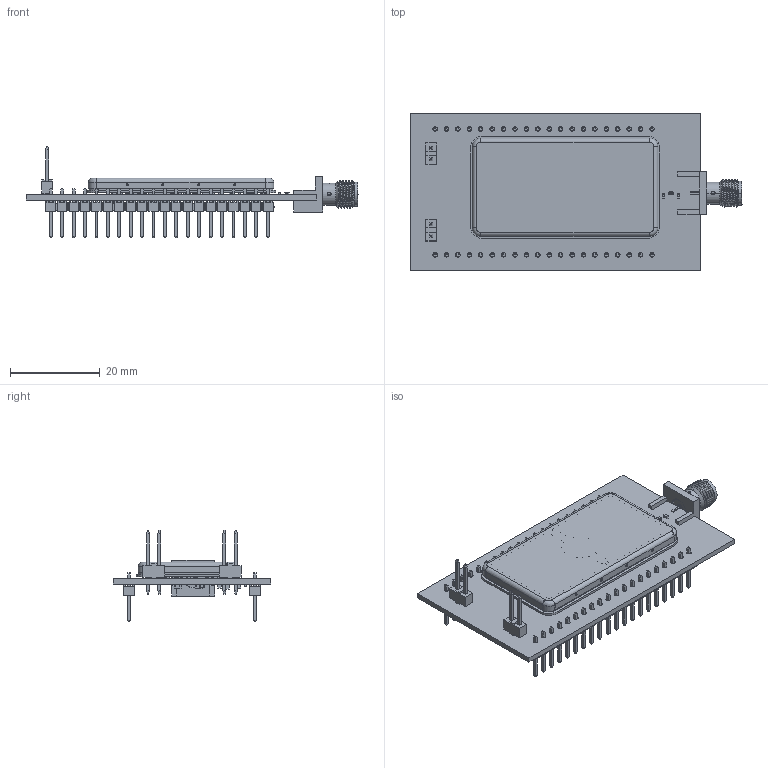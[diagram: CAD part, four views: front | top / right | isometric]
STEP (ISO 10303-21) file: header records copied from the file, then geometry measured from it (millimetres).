
FILE_DESCRIPTION(('Open CASCADE Model'),'2;1');
FILE_NAME('Open CASCADE Shape Model','2022-03-30T10:42:46',('Author'),( 'Open CASCADE'),'Open CASCADE STEP processor 6.8','Open CASCADE 6.8' ,'Unknown');
FILE_SCHEMA(('AUTOMOTIVE_DESIGN { 1 0 10303 214 1 1 1 1 }'));
Length unit declared in the file: millimetre
Products named in the file (132): PCB; Board; Open CASCADE STEP translator 6.8 3.1.1; C41; CAPC1005X06; SB2; 6235102768; Extruded; SB11; SB9; SB5; C37; C35; CAPC1608X09; SB6; R3; RESC1005X04N; C32; C26; C110; C34; User_Library-Chip_Cap_MLCC_0201_(0603); C33; C24; C27; L2; Chip_InductorINDC2012X130N; X3; NX2016; 6398123872; 6398123712; R6; R0402; 6398125072; L11; INDC1005X50N; 6398124512; C39; C0402; C38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
Assembly tree (273 placements, depth 5):
  PCB
    Board
      Open CASCADE STEP translator 6.8 3.1.1
    C41
      CAPC1005X06
    SB2
      6235102768
        Extruded
    SB11
      6235102768
        Extruded
    SB9
      6235102768
        Extruded
    SB5
      6235102768
        Extruded
    C37
      CAPC1005X06
    C35
      CAPC1608X09
    SB6
      6235102768
        Extruded
    R3
      RESC1005X04N
    C32
      CAPC1005X06
    C26
      CAPC1005X06
    C110
      CAPC1005X06
    C34
      User_Library-Chip_Cap_MLCC_0201_(0603)
    C33
      User_Library-Chip_Cap_MLCC_0201_(0603)
    C24
      CAPC1005X06
    C27
      CAPC1005X06
    L2
      Chip_InductorINDC2012X130N
    X3
      NX2016
      6398123872
        Extruded
      6398123712
        Extruded
    R6
      R0402
      6398125072
        Extruded
    L11
      INDC1005X50N
      6398124512
        Extruded
    C39
      C0402
      6398125072
        Extruded
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Bounding box: 73.85 x 35 x 20.34 mm (x, y, z)
Volume: 4140.8 mm3; surface area: 12370.9 mm2
Topology: 179 solids, 187 shells, 6498 faces, 16636 edges, 10020 vertices
Faces by surface type: plane 3600, cylinder 1686, bspline 955, sphere 190, torus 33, cone 18, revolution 16
Full cylindrical faces by diameter (mm): 0.094 x1, 0.625 x1, 1 x44
Entity records: 104988 total; most frequent: CARTESIAN_POINT 24043, ORIENTED_EDGE 13372, DIRECTION 12668, EDGE_CURVE 6688, LINE 4656, VECTOR 4656, VERTEX_POINT 4162, AXIS2_PLACEMENT_3D 4002
